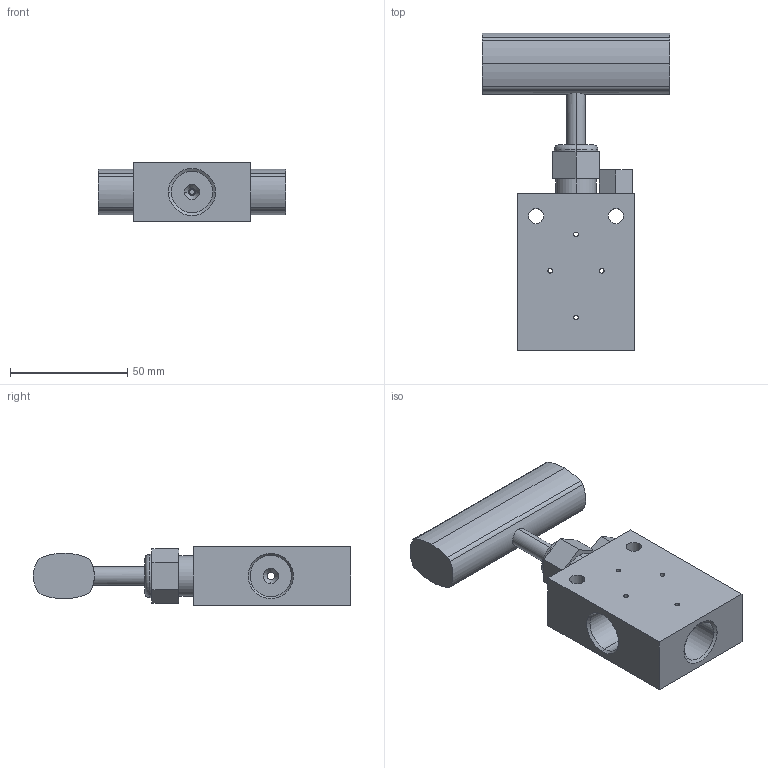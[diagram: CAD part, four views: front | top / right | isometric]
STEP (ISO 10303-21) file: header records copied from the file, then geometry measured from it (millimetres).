
FILE_DESCRIPTION (( 'STEP AP203' ), '1' );
FILE_NAME ('NV60VS06-O-00-00.STEP', '2023-02-21T07:56:14', ( 'USER' ), ( '' ), 'SwSTEP 2.0', 'SolidWorks 2020', '' );
FILE_SCHEMA (( 'CONFIG_CONTROL_DESIGN' ));
Length unit declared in the file: millimetre
Products named in the file (1): NV60VS06-O-00-00
Bounding box: 80 x 135.21 x 25 mm (x, y, z)
Volume: 112913.7 mm3; surface area: 26026.5 mm2
Topology: 1 solids, 1 shells, 102 faces, 257 edges, 160 vertices
Faces by surface type: cylinder 53, plane 29, cone 18, torus 2
Entity records: 3602 total; most frequent: CARTESIAN_POINT 994, DIRECTION 539, ORIENTED_EDGE 514, EDGE_CURVE 257, AXIS2_PLACEMENT_3D 205, VERTEX_POINT 160, EDGE_LOOP 131, LINE 129
